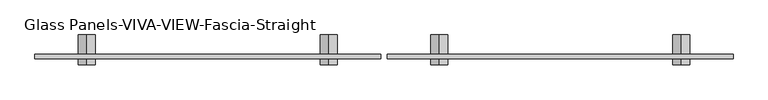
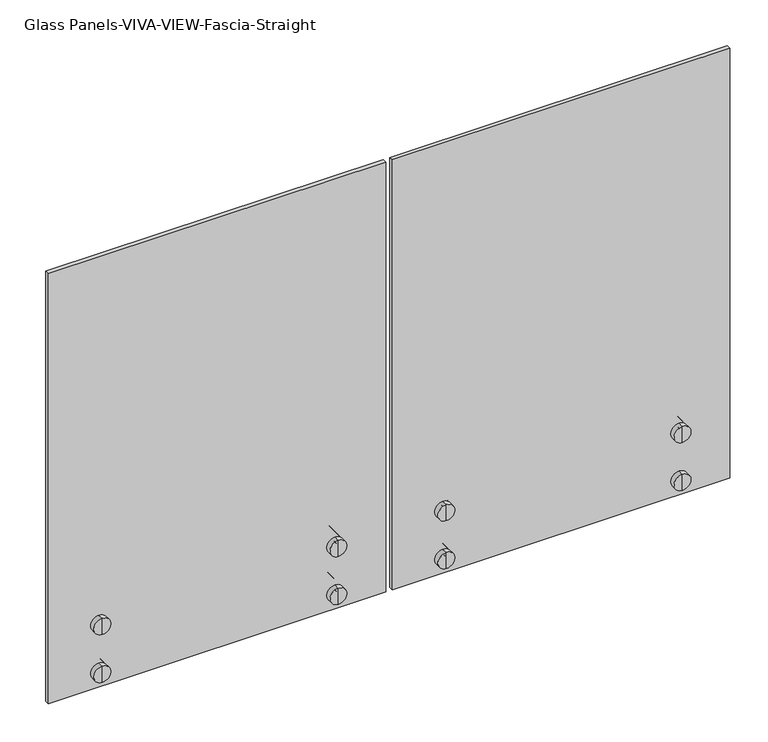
"""IFC4 building model written with IfcOpenShell, lengths in millimetres: railing geometry, Glass Panels-VIVA-VIEW-Fascia-Straight."""

from ifc_helpers import new_model, si_unit, frame, origin, place, context, project, spatial, polyline, circle_curve, outline, extrude, source, transform, mapped, element, save
from ifc_brep_helpers import plane_surface, cylinder_surface, advanced_brep


def glass_panels_viva_view_fascia_straight_90ccb595(model_context):
    return source(origin(), model_context, "Body", "SolidModel", [
        advanced_brep(
        [(38955.5896899, -2620.3591646, 2794.0), (38955.5896899, -2620.3591646, 2844.8), (38955.5896899, -2620.3591646, 2819.4), (38955.5896899, -2602.8966646, 2794.0), (38955.5896899, -2602.8966646, 2844.8), (38955.5896899, -2602.8966646, 2813.685), (38955.5896899, -2602.8966646, 2825.115), (38955.5896899, -2590.1966646, 2813.685), (38955.5896899, -2590.1966646, 2825.115), (38955.5896899, -2590.1966646, 2794.0), (38955.5896899, -2590.1966646, 2844.8), (38955.5896899, -2533.0468115, 2794.0), (38955.5896899, -2533.0468115, 2844.8), (38955.5896899, -2533.0468115, 2819.4)],
        [
            (0, 1, circle_curve(frame((38955.5896899, -2620.3591646, 2819.4), z_axis=(0.0, -1.0, 0.0), x_axis=(0.0, 0.0, 1.0)), 25.4)),
            (1, 2),
            (2, 0),
            (1, 0, circle_curve(frame((38955.5896899, -2620.3591646, 2819.4), z_axis=(0.0, -1.0, 0.0), x_axis=(0.0, 0.0, 1.0)), 25.4)),
            (3, 4, circle_curve(frame((38955.5896899, -2602.8966646, 2819.4), z_axis=(0.0, -1.0, 0.0), x_axis=(0.0, 0.0, 1.0)), 25.4)),
            (4, 1),
            (0, 3),
            (4, 3, circle_curve(frame((38955.5896899, -2602.8966646, 2819.4), z_axis=(0.0, -1.0, 0.0), x_axis=(0.0, 0.0, 1.0)), 25.4)),
            (5, 6, circle_curve(frame((38955.5896899, -2602.8966646, 2819.4), z_axis=(0.0, -1.0, 0.0), x_axis=(0.0, 0.0, 1.0)), 5.715)),
            (6, 4),
            (3, 5),
            (6, 5, circle_curve(frame((38955.5896899, -2602.8966646, 2819.4), z_axis=(0.0, -1.0, 0.0), x_axis=(0.0, 0.0, 1.0)), 5.715)),
            (7, 8, circle_curve(frame((38955.5896899, -2590.1966646, 2819.4), z_axis=(0.0, -1.0, 0.0), x_axis=(0.0, 0.0, 1.0)), 5.715)),
            (8, 6),
            (5, 7),
            (8, 7, circle_curve(frame((38955.5896899, -2590.1966646, 2819.4), z_axis=(0.0, -1.0, 0.0), x_axis=(0.0, 0.0, 1.0)), 5.715)),
            (9, 10, circle_curve(frame((38955.5896899, -2590.1966646, 2819.4), z_axis=(0.0, -1.0, 0.0), x_axis=(0.0, 0.0, 1.0)), 25.4)),
            (10, 8),
            (7, 9),
            (10, 9, circle_curve(frame((38955.5896899, -2590.1966646, 2819.4), z_axis=(0.0, -1.0, 0.0), x_axis=(0.0, 0.0, 1.0)), 25.4)),
            (11, 12, circle_curve(frame((38955.5896899, -2533.0468115, 2819.4), z_axis=(0.0, -1.0, 0.0), x_axis=(0.0, 0.0, 1.0)), 25.4)),
            (12, 10),
            (9, 11),
            (12, 11, circle_curve(frame((38955.5896899, -2533.0468115, 2819.4), z_axis=(0.0, -1.0, 0.0), x_axis=(0.0, 0.0, 1.0)), 25.4)),
            (13, 12),
            (11, 13),
        ],
        [
            plane_surface(frame((38955.5896899, -2620.3591646, 2819.4), z_axis=(0.0, -1.0, 0.0), x_axis=(0.0, 0.0, 1.0))),
            cylinder_surface(frame((38955.5896899, -2688.6218115, 2819.4), z_axis=(0.0, 1.0, 0.0), x_axis=(0.0, 0.0, 1.0)), 25.4),
            plane_surface(frame((38955.5896899, -2602.8966646, 2819.4), z_axis=(0.0, 1.0, 0.0), x_axis=(0.0, 0.0, 1.0))),
            cylinder_surface(frame((38955.5896899, -2688.6218115, 2819.4), z_axis=(0.0, 1.0, 0.0), x_axis=(0.0, 0.0, 1.0)), 5.715),
            plane_surface(frame((38955.5896899, -2590.1966646, 2819.4), z_axis=(0.0, -1.0, 0.0), x_axis=(0.0, 0.0, 1.0))),
            plane_surface(frame((38955.5896899, -2533.0468115, 2819.4), z_axis=(0.0, 1.0, 0.0), x_axis=(0.0, 0.0, 1.0))),
        ],
        [
            (0, [[1, 2, 3]]),
            (0, [[4, -3, -2]]),
            (1, [[5, 6, -1, 7]]),
            (1, [[8, -7, -4, -6]]),
            (2, [[9, 10, -5, 11]]),
            (2, [[12, -11, -8, -10]]),
            (3, [[13, 14, -9, 15]]),
            (3, [[16, -15, -12, -14]]),
            (4, [[17, 18, -13, 19]]),
            (4, [[20, -19, -16, -18]]),
            (1, [[21, 22, -17, 23]]),
            (1, [[24, -23, -20, -22]]),
            (5, [[25, -21, 26]]),
            (5, [[-26, -24, -25]]),
        ],
    ),
        advanced_brep(
        [(38955.5896899, -2602.8966646, 2966.085), (38955.5896899, -2602.8966646, 2977.515), (38955.5896899, -2602.8966646, 2997.2), (38955.5896899, -2602.8966646, 2946.4), (38955.5896899, -2590.1966646, 2966.085), (38955.5896899, -2590.1966646, 2977.515), (38955.5896899, -2590.1966646, 2946.4), (38955.5896899, -2590.1966646, 2997.2), (38955.5896899, -2533.0468115, 2946.4), (38955.5896899, -2533.0468115, 2997.2), (38955.5896899, -2533.0468115, 2971.8), (38955.5896899, -2620.3591646, 2946.4), (38955.5896899, -2620.3591646, 2997.2), (38955.5896899, -2620.3591646, 2971.8)],
        [
            (0, 1, circle_curve(frame((38955.5896899, -2602.8966646, 2971.8), z_axis=(0.0, -1.0, 0.0), x_axis=(0.0, 0.0, 1.0)), 5.715)),
            (1, 2),
            (2, 3, circle_curve(frame((38955.5896899, -2602.8966646, 2971.8), z_axis=(0.0, 1.0, 0.0), x_axis=(0.0, 0.0, 1.0)), 25.4)),
            (3, 0),
            (1, 0, circle_curve(frame((38955.5896899, -2602.8966646, 2971.8), z_axis=(0.0, -1.0, 0.0), x_axis=(0.0, 0.0, 1.0)), 5.715)),
            (3, 2, circle_curve(frame((38955.5896899, -2602.8966646, 2971.8), z_axis=(0.0, 1.0, 0.0), x_axis=(0.0, 0.0, 1.0)), 25.4)),
            (4, 5, circle_curve(frame((38955.5896899, -2590.1966646, 2971.8), z_axis=(0.0, -1.0, 0.0), x_axis=(0.0, 0.0, 1.0)), 5.715)),
            (5, 1),
            (0, 4),
            (5, 4, circle_curve(frame((38955.5896899, -2590.1966646, 2971.8), z_axis=(0.0, -1.0, 0.0), x_axis=(0.0, 0.0, 1.0)), 5.715)),
            (6, 7, circle_curve(frame((38955.5896899, -2590.1966646, 2971.8), z_axis=(0.0, -1.0, 0.0), x_axis=(0.0, 0.0, 1.0)), 25.4)),
            (7, 5),
            (4, 6),
            (7, 6, circle_curve(frame((38955.5896899, -2590.1966646, 2971.8), z_axis=(0.0, -1.0, 0.0), x_axis=(0.0, 0.0, 1.0)), 25.4)),
            (8, 9, circle_curve(frame((38955.5896899, -2533.0468115, 2971.8), z_axis=(0.0, -1.0, 0.0), x_axis=(0.0, 0.0, 1.0)), 25.4)),
            (9, 7),
            (6, 8),
            (9, 8, circle_curve(frame((38955.5896899, -2533.0468115, 2971.8), z_axis=(0.0, -1.0, 0.0), x_axis=(0.0, 0.0, 1.0)), 25.4)),
            (10, 9),
            (8, 10),
            (11, 12, circle_curve(frame((38955.5896899, -2620.3591646, 2971.8), z_axis=(0.0, -1.0, 0.0), x_axis=(0.0, 0.0, 1.0)), 25.4)),
            (12, 13),
            (13, 11),
            (12, 11, circle_curve(frame((38955.5896899, -2620.3591646, 2971.8), z_axis=(0.0, -1.0, 0.0), x_axis=(0.0, 0.0, 1.0)), 25.4)),
            (2, 12),
            (11, 3),
        ],
        [
            plane_surface(frame((38955.5896899, -2602.8966646, 2971.8), z_axis=(0.0, 1.0, 0.0), x_axis=(0.0, 0.0, 1.0))),
            cylinder_surface(frame((38955.5896899, -2688.6218115, 2971.8), z_axis=(0.0, 1.0, 0.0), x_axis=(0.0, 0.0, 1.0)), 5.715),
            plane_surface(frame((38955.5896899, -2590.1966646, 2971.8), z_axis=(0.0, -1.0, 0.0), x_axis=(0.0, 0.0, 1.0))),
            cylinder_surface(frame((38955.5896899, -2688.6218115, 2971.8), z_axis=(0.0, 1.0, 0.0), x_axis=(0.0, 0.0, 1.0)), 25.4),
            plane_surface(frame((38955.5896899, -2533.0468115, 2971.8), z_axis=(0.0, 1.0, 0.0), x_axis=(0.0, 0.0, 1.0))),
            plane_surface(frame((38955.5896899, -2620.3591646, 2971.8), z_axis=(0.0, -1.0, 0.0), x_axis=(0.0, 0.0, 1.0))),
        ],
        [
            (0, [[1, 2, 3, 4]]),
            (0, [[5, -4, 6, -2]]),
            (1, [[7, 8, -1, 9]]),
            (1, [[10, -9, -5, -8]]),
            (2, [[11, 12, -7, 13]]),
            (2, [[14, -13, -10, -12]]),
            (3, [[15, 16, -11, 17]]),
            (3, [[18, -17, -14, -16]]),
            (4, [[19, -15, 20]]),
            (4, [[-20, -18, -19]]),
            (5, [[21, 22, 23]]),
            (5, [[24, -23, -22]]),
            (3, [[-3, 25, -21, 26]]),
            (3, [[-6, -26, -24, -25]]),
        ],
    ),
        advanced_brep(
        [(39666.7896899, -2620.3591646, 2794.0), (39666.7896899, -2620.3591646, 2844.8), (39666.7896899, -2620.3591646, 2819.4), (39666.7896899, -2602.8966646, 2794.0), (39666.7896899, -2602.8966646, 2844.8), (39666.7896899, -2602.8966646, 2813.685), (39666.7896899, -2602.8966646, 2825.115), (39666.7896899, -2590.1966646, 2813.685), (39666.7896899, -2590.1966646, 2825.115), (39666.7896899, -2590.1966646, 2794.0), (39666.7896899, -2590.1966646, 2844.8), (39666.7896899, -2533.0468115, 2794.0), (39666.7896899, -2533.0468115, 2844.8), (39666.7896899, -2533.0468115, 2819.4)],
        [
            (0, 1, circle_curve(frame((39666.7896899, -2620.3591646, 2819.4), z_axis=(0.0, -1.0, 0.0), x_axis=(0.0, 0.0, 1.0)), 25.4)),
            (1, 2),
            (2, 0),
            (1, 0, circle_curve(frame((39666.7896899, -2620.3591646, 2819.4), z_axis=(0.0, -1.0, 0.0), x_axis=(0.0, 0.0, 1.0)), 25.4)),
            (3, 4, circle_curve(frame((39666.7896899, -2602.8966646, 2819.4), z_axis=(0.0, -1.0, 0.0), x_axis=(0.0, 0.0, 1.0)), 25.4)),
            (4, 1),
            (0, 3),
            (4, 3, circle_curve(frame((39666.7896899, -2602.8966646, 2819.4), z_axis=(0.0, -1.0, 0.0), x_axis=(0.0, 0.0, 1.0)), 25.4)),
            (5, 6, circle_curve(frame((39666.7896899, -2602.8966646, 2819.4), z_axis=(0.0, -1.0, 0.0), x_axis=(0.0, 0.0, 1.0)), 5.715)),
            (6, 4),
            (3, 5),
            (6, 5, circle_curve(frame((39666.7896899, -2602.8966646, 2819.4), z_axis=(0.0, -1.0, 0.0), x_axis=(0.0, 0.0, 1.0)), 5.715)),
            (7, 8, circle_curve(frame((39666.7896899, -2590.1966646, 2819.4), z_axis=(0.0, -1.0, 0.0), x_axis=(0.0, 0.0, 1.0)), 5.715)),
            (8, 6),
            (5, 7),
            (8, 7, circle_curve(frame((39666.7896899, -2590.1966646, 2819.4), z_axis=(0.0, -1.0, 0.0), x_axis=(0.0, 0.0, 1.0)), 5.715)),
            (9, 10, circle_curve(frame((39666.7896899, -2590.1966646, 2819.4), z_axis=(0.0, -1.0, 0.0), x_axis=(0.0, 0.0, 1.0)), 25.4)),
            (10, 8),
            (7, 9),
            (10, 9, circle_curve(frame((39666.7896899, -2590.1966646, 2819.4), z_axis=(0.0, -1.0, 0.0), x_axis=(0.0, 0.0, 1.0)), 25.4)),
            (11, 12, circle_curve(frame((39666.7896899, -2533.0468115, 2819.4), z_axis=(0.0, -1.0, 0.0), x_axis=(0.0, 0.0, 1.0)), 25.4)),
            (12, 10),
            (9, 11),
            (12, 11, circle_curve(frame((39666.7896899, -2533.0468115, 2819.4), z_axis=(0.0, -1.0, 0.0), x_axis=(0.0, 0.0, 1.0)), 25.4)),
            (13, 12),
            (11, 13),
        ],
        [
            plane_surface(frame((39666.7896899, -2620.3591646, 2819.4), z_axis=(0.0, -1.0, 0.0), x_axis=(0.0, 0.0, 1.0))),
            cylinder_surface(frame((39666.7896899, -2688.6218115, 2819.4), z_axis=(0.0, 1.0, 0.0), x_axis=(0.0, 0.0, 1.0)), 25.4),
            plane_surface(frame((39666.7896899, -2602.8966646, 2819.4), z_axis=(0.0, 1.0, 0.0), x_axis=(0.0, 0.0, 1.0))),
            cylinder_surface(frame((39666.7896899, -2688.6218115, 2819.4), z_axis=(0.0, 1.0, 0.0), x_axis=(0.0, 0.0, 1.0)), 5.715),
            plane_surface(frame((39666.7896899, -2590.1966646, 2819.4), z_axis=(0.0, -1.0, 0.0), x_axis=(0.0, 0.0, 1.0))),
            plane_surface(frame((39666.7896899, -2533.0468115, 2819.4), z_axis=(0.0, 1.0, 0.0), x_axis=(0.0, 0.0, 1.0))),
        ],
        [
            (0, [[1, 2, 3]]),
            (0, [[4, -3, -2]]),
            (1, [[5, 6, -1, 7]]),
            (1, [[8, -7, -4, -6]]),
            (2, [[9, 10, -5, 11]]),
            (2, [[12, -11, -8, -10]]),
            (3, [[13, 14, -9, 15]]),
            (3, [[16, -15, -12, -14]]),
            (4, [[17, 18, -13, 19]]),
            (4, [[20, -19, -16, -18]]),
            (1, [[21, 22, -17, 23]]),
            (1, [[24, -23, -20, -22]]),
            (5, [[25, -21, 26]]),
            (5, [[-26, -24, -25]]),
        ],
    ),
        advanced_brep(
        [(39666.7896899, -2602.8966646, 2966.085), (39666.7896899, -2602.8966646, 2977.515), (39666.7896899, -2602.8966646, 2997.2), (39666.7896899, -2602.8966646, 2946.4), (39666.7896899, -2590.1966646, 2966.085), (39666.7896899, -2590.1966646, 2977.515), (39666.7896899, -2590.1966646, 2946.4), (39666.7896899, -2590.1966646, 2997.2), (39666.7896899, -2533.0468115, 2946.4), (39666.7896899, -2533.0468115, 2997.2), (39666.7896899, -2533.0468115, 2971.8), (39666.7896899, -2620.3591646, 2946.4), (39666.7896899, -2620.3591646, 2997.2), (39666.7896899, -2620.3591646, 2971.8)],
        [
            (0, 1, circle_curve(frame((39666.7896899, -2602.8966646, 2971.8), z_axis=(0.0, -1.0, 0.0), x_axis=(0.0, 0.0, 1.0)), 5.715)),
            (1, 2),
            (2, 3, circle_curve(frame((39666.7896899, -2602.8966646, 2971.8), z_axis=(0.0, 1.0, 0.0), x_axis=(0.0, 0.0, 1.0)), 25.4)),
            (3, 0),
            (1, 0, circle_curve(frame((39666.7896899, -2602.8966646, 2971.8), z_axis=(0.0, -1.0, 0.0), x_axis=(0.0, 0.0, 1.0)), 5.715)),
            (3, 2, circle_curve(frame((39666.7896899, -2602.8966646, 2971.8), z_axis=(0.0, 1.0, 0.0), x_axis=(0.0, 0.0, 1.0)), 25.4)),
            (4, 5, circle_curve(frame((39666.7896899, -2590.1966646, 2971.8), z_axis=(0.0, -1.0, 0.0), x_axis=(0.0, 0.0, 1.0)), 5.715)),
            (5, 1),
            (0, 4),
            (5, 4, circle_curve(frame((39666.7896899, -2590.1966646, 2971.8), z_axis=(0.0, -1.0, 0.0), x_axis=(0.0, 0.0, 1.0)), 5.715)),
            (6, 7, circle_curve(frame((39666.7896899, -2590.1966646, 2971.8), z_axis=(0.0, -1.0, 0.0), x_axis=(0.0, 0.0, 1.0)), 25.4)),
            (7, 5),
            (4, 6),
            (7, 6, circle_curve(frame((39666.7896899, -2590.1966646, 2971.8), z_axis=(0.0, -1.0, 0.0), x_axis=(0.0, 0.0, 1.0)), 25.4)),
            (8, 9, circle_curve(frame((39666.7896899, -2533.0468115, 2971.8), z_axis=(0.0, -1.0, 0.0), x_axis=(0.0, 0.0, 1.0)), 25.4)),
            (9, 7),
            (6, 8),
            (9, 8, circle_curve(frame((39666.7896899, -2533.0468115, 2971.8), z_axis=(0.0, -1.0, 0.0), x_axis=(0.0, 0.0, 1.0)), 25.4)),
            (10, 9),
            (8, 10),
            (11, 12, circle_curve(frame((39666.7896899, -2620.3591646, 2971.8), z_axis=(0.0, -1.0, 0.0), x_axis=(0.0, 0.0, 1.0)), 25.4)),
            (12, 13),
            (13, 11),
            (12, 11, circle_curve(frame((39666.7896899, -2620.3591646, 2971.8), z_axis=(0.0, -1.0, 0.0), x_axis=(0.0, 0.0, 1.0)), 25.4)),
            (2, 12),
            (11, 3),
        ],
        [
            plane_surface(frame((39666.7896899, -2602.8966646, 2971.8), z_axis=(0.0, 1.0, 0.0), x_axis=(0.0, 0.0, 1.0))),
            cylinder_surface(frame((39666.7896899, -2688.6218115, 2971.8), z_axis=(0.0, 1.0, 0.0), x_axis=(0.0, 0.0, 1.0)), 5.715),
            plane_surface(frame((39666.7896899, -2590.1966646, 2971.8), z_axis=(0.0, -1.0, 0.0), x_axis=(0.0, 0.0, 1.0))),
            cylinder_surface(frame((39666.7896899, -2688.6218115, 2971.8), z_axis=(0.0, 1.0, 0.0), x_axis=(0.0, 0.0, 1.0)), 25.4),
            plane_surface(frame((39666.7896899, -2533.0468115, 2971.8), z_axis=(0.0, 1.0, 0.0), x_axis=(0.0, 0.0, 1.0))),
            plane_surface(frame((39666.7896899, -2620.3591646, 2971.8), z_axis=(0.0, -1.0, 0.0), x_axis=(0.0, 0.0, 1.0))),
        ],
        [
            (0, [[1, 2, 3, 4]]),
            (0, [[5, -4, 6, -2]]),
            (1, [[7, 8, -1, 9]]),
            (1, [[10, -9, -5, -8]]),
            (2, [[11, 12, -7, 13]]),
            (2, [[14, -13, -10, -12]]),
            (3, [[15, 16, -11, 17]]),
            (3, [[18, -17, -14, -16]]),
            (4, [[19, -15, 20]]),
            (4, [[-20, -18, -19]]),
            (5, [[21, 22, 23]]),
            (5, [[24, -23, -22]]),
            (3, [[-3, 25, -21, 26]]),
            (3, [[-6, -26, -24, -25]]),
        ],
    ),
        extrude(outline(polyline([(38803.1896899, -2590.1969585), (39819.1896899, -2590.1969585), (39819.1896899, -2602.8969585), (38803.1896899, -2602.8969585), (38803.1896899, -2590.1969585)])), frame((0.0, 0.0, 2768.6), z_axis=(0.0, 0.0, 1.0), x_axis=(1.0, 0.0, 0.0)), (0.0, 0.0, 1.0), 1370.0125),
        advanced_brep(
        [(37919.2696899, -2620.3591646, 2794.0), (37919.2696899, -2620.3591646, 2844.8), (37919.2696899, -2620.3591646, 2819.4), (37919.2696899, -2602.8966646, 2794.0), (37919.2696899, -2602.8966646, 2844.8), (37919.2696899, -2602.8966646, 2813.685), (37919.2696899, -2602.8966646, 2825.115), (37919.2696899, -2590.1966646, 2813.685), (37919.2696899, -2590.1966646, 2825.115), (37919.2696899, -2590.1966646, 2794.0), (37919.2696899, -2590.1966646, 2844.8), (37919.2696899, -2533.0468115, 2794.0), (37919.2696899, -2533.0468115, 2844.8), (37919.2696899, -2533.0468115, 2819.4)],
        [
            (0, 1, circle_curve(frame((37919.2696899, -2620.3591646, 2819.4), z_axis=(0.0, -1.0, 0.0), x_axis=(0.0, 0.0, 1.0)), 25.4)),
            (1, 2),
            (2, 0),
            (1, 0, circle_curve(frame((37919.2696899, -2620.3591646, 2819.4), z_axis=(0.0, -1.0, 0.0), x_axis=(0.0, 0.0, 1.0)), 25.4)),
            (3, 4, circle_curve(frame((37919.2696899, -2602.8966646, 2819.4), z_axis=(0.0, -1.0, 0.0), x_axis=(0.0, 0.0, 1.0)), 25.4)),
            (4, 1),
            (0, 3),
            (4, 3, circle_curve(frame((37919.2696899, -2602.8966646, 2819.4), z_axis=(0.0, -1.0, 0.0), x_axis=(0.0, 0.0, 1.0)), 25.4)),
            (5, 6, circle_curve(frame((37919.2696899, -2602.8966646, 2819.4), z_axis=(0.0, -1.0, 0.0), x_axis=(0.0, 0.0, 1.0)), 5.715)),
            (6, 4),
            (3, 5),
            (6, 5, circle_curve(frame((37919.2696899, -2602.8966646, 2819.4), z_axis=(0.0, -1.0, 0.0), x_axis=(0.0, 0.0, 1.0)), 5.715)),
            (7, 8, circle_curve(frame((37919.2696899, -2590.1966646, 2819.4), z_axis=(0.0, -1.0, 0.0), x_axis=(0.0, 0.0, 1.0)), 5.715)),
            (8, 6),
            (5, 7),
            (8, 7, circle_curve(frame((37919.2696899, -2590.1966646, 2819.4), z_axis=(0.0, -1.0, 0.0), x_axis=(0.0, 0.0, 1.0)), 5.715)),
            (9, 10, circle_curve(frame((37919.2696899, -2590.1966646, 2819.4), z_axis=(0.0, -1.0, 0.0), x_axis=(0.0, 0.0, 1.0)), 25.4)),
            (10, 8),
            (7, 9),
            (10, 9, circle_curve(frame((37919.2696899, -2590.1966646, 2819.4), z_axis=(0.0, -1.0, 0.0), x_axis=(0.0, 0.0, 1.0)), 25.4)),
            (11, 12, circle_curve(frame((37919.2696899, -2533.0468115, 2819.4), z_axis=(0.0, -1.0, 0.0), x_axis=(0.0, 0.0, 1.0)), 25.4)),
            (12, 10),
            (9, 11),
            (12, 11, circle_curve(frame((37919.2696899, -2533.0468115, 2819.4), z_axis=(0.0, -1.0, 0.0), x_axis=(0.0, 0.0, 1.0)), 25.4)),
            (13, 12),
            (11, 13),
        ],
        [
            plane_surface(frame((37919.2696899, -2620.3591646, 2819.4), z_axis=(0.0, -1.0, 0.0), x_axis=(0.0, 0.0, 1.0))),
            cylinder_surface(frame((37919.2696899, -2688.6218115, 2819.4), z_axis=(0.0, 1.0, 0.0), x_axis=(0.0, 0.0, 1.0)), 25.4),
            plane_surface(frame((37919.2696899, -2602.8966646, 2819.4), z_axis=(0.0, 1.0, 0.0), x_axis=(0.0, 0.0, 1.0))),
            cylinder_surface(frame((37919.2696899, -2688.6218115, 2819.4), z_axis=(0.0, 1.0, 0.0), x_axis=(0.0, 0.0, 1.0)), 5.715),
            plane_surface(frame((37919.2696899, -2590.1966646, 2819.4), z_axis=(0.0, -1.0, 0.0), x_axis=(0.0, 0.0, 1.0))),
            plane_surface(frame((37919.2696899, -2533.0468115, 2819.4), z_axis=(0.0, 1.0, 0.0), x_axis=(0.0, 0.0, 1.0))),
        ],
        [
            (0, [[1, 2, 3]]),
            (0, [[4, -3, -2]]),
            (1, [[5, 6, -1, 7]]),
            (1, [[8, -7, -4, -6]]),
            (2, [[9, 10, -5, 11]]),
            (2, [[12, -11, -8, -10]]),
            (3, [[13, 14, -9, 15]]),
            (3, [[16, -15, -12, -14]]),
            (4, [[17, 18, -13, 19]]),
            (4, [[20, -19, -16, -18]]),
            (1, [[21, 22, -17, 23]]),
            (1, [[24, -23, -20, -22]]),
            (5, [[25, -21, 26]]),
            (5, [[-26, -24, -25]]),
        ],
    ),
        advanced_brep(
        [(37919.2696899, -2602.8966646, 2966.085), (37919.2696899, -2602.8966646, 2977.515), (37919.2696899, -2602.8966646, 2997.2), (37919.2696899, -2602.8966646, 2946.4), (37919.2696899, -2590.1966646, 2966.085), (37919.2696899, -2590.1966646, 2977.515), (37919.2696899, -2590.1966646, 2946.4), (37919.2696899, -2590.1966646, 2997.2), (37919.2696899, -2533.0468115, 2946.4), (37919.2696899, -2533.0468115, 2997.2), (37919.2696899, -2533.0468115, 2971.8), (37919.2696899, -2620.3591646, 2946.4), (37919.2696899, -2620.3591646, 2997.2), (37919.2696899, -2620.3591646, 2971.8)],
        [
            (0, 1, circle_curve(frame((37919.2696899, -2602.8966646, 2971.8), z_axis=(0.0, -1.0, 0.0), x_axis=(0.0, 0.0, 1.0)), 5.715)),
            (1, 2),
            (2, 3, circle_curve(frame((37919.2696899, -2602.8966646, 2971.8), z_axis=(0.0, 1.0, 0.0), x_axis=(0.0, 0.0, 1.0)), 25.4)),
            (3, 0),
            (1, 0, circle_curve(frame((37919.2696899, -2602.8966646, 2971.8), z_axis=(0.0, -1.0, 0.0), x_axis=(0.0, 0.0, 1.0)), 5.715)),
            (3, 2, circle_curve(frame((37919.2696899, -2602.8966646, 2971.8), z_axis=(0.0, 1.0, 0.0), x_axis=(0.0, 0.0, 1.0)), 25.4)),
            (4, 5, circle_curve(frame((37919.2696899, -2590.1966646, 2971.8), z_axis=(0.0, -1.0, 0.0), x_axis=(0.0, 0.0, 1.0)), 5.715)),
            (5, 1),
            (0, 4),
            (5, 4, circle_curve(frame((37919.2696899, -2590.1966646, 2971.8), z_axis=(0.0, -1.0, 0.0), x_axis=(0.0, 0.0, 1.0)), 5.715)),
            (6, 7, circle_curve(frame((37919.2696899, -2590.1966646, 2971.8), z_axis=(0.0, -1.0, 0.0), x_axis=(0.0, 0.0, 1.0)), 25.4)),
            (7, 5),
            (4, 6),
            (7, 6, circle_curve(frame((37919.2696899, -2590.1966646, 2971.8), z_axis=(0.0, -1.0, 0.0), x_axis=(0.0, 0.0, 1.0)), 25.4)),
            (8, 9, circle_curve(frame((37919.2696899, -2533.0468115, 2971.8), z_axis=(0.0, -1.0, 0.0), x_axis=(0.0, 0.0, 1.0)), 25.4)),
            (9, 7),
            (6, 8),
            (9, 8, circle_curve(frame((37919.2696899, -2533.0468115, 2971.8), z_axis=(0.0, -1.0, 0.0), x_axis=(0.0, 0.0, 1.0)), 25.4)),
            (10, 9),
            (8, 10),
            (11, 12, circle_curve(frame((37919.2696899, -2620.3591646, 2971.8), z_axis=(0.0, -1.0, 0.0), x_axis=(0.0, 0.0, 1.0)), 25.4)),
            (12, 13),
            (13, 11),
            (12, 11, circle_curve(frame((37919.2696899, -2620.3591646, 2971.8), z_axis=(0.0, -1.0, 0.0), x_axis=(0.0, 0.0, 1.0)), 25.4)),
            (2, 12),
            (11, 3),
        ],
        [
            plane_surface(frame((37919.2696899, -2602.8966646, 2971.8), z_axis=(0.0, 1.0, 0.0), x_axis=(0.0, 0.0, 1.0))),
            cylinder_surface(frame((37919.2696899, -2688.6218115, 2971.8), z_axis=(0.0, 1.0, 0.0), x_axis=(0.0, 0.0, 1.0)), 5.715),
            plane_surface(frame((37919.2696899, -2590.1966646, 2971.8), z_axis=(0.0, -1.0, 0.0), x_axis=(0.0, 0.0, 1.0))),
            cylinder_surface(frame((37919.2696899, -2688.6218115, 2971.8), z_axis=(0.0, 1.0, 0.0), x_axis=(0.0, 0.0, 1.0)), 25.4),
            plane_surface(frame((37919.2696899, -2533.0468115, 2971.8), z_axis=(0.0, 1.0, 0.0), x_axis=(0.0, 0.0, 1.0))),
            plane_surface(frame((37919.2696899, -2620.3591646, 2971.8), z_axis=(0.0, -1.0, 0.0), x_axis=(0.0, 0.0, 1.0))),
        ],
        [
            (0, [[1, 2, 3, 4]]),
            (0, [[5, -4, 6, -2]]),
            (1, [[7, 8, -1, 9]]),
            (1, [[10, -9, -5, -8]]),
            (2, [[11, 12, -7, 13]]),
            (2, [[14, -13, -10, -12]]),
            (3, [[15, 16, -11, 17]]),
            (3, [[18, -17, -14, -16]]),
            (4, [[19, -15, 20]]),
            (4, [[-20, -18, -19]]),
            (5, [[21, 22, 23]]),
            (5, [[24, -23, -22]]),
            (3, [[-3, 25, -21, 26]]),
            (3, [[-6, -26, -24, -25]]),
        ],
    ),
        advanced_brep(
        [(38630.4696899, -2620.3591646, 2794.0), (38630.4696899, -2620.3591646, 2844.8), (38630.4696899, -2620.3591646, 2819.4), (38630.4696899, -2602.8966646, 2794.0), (38630.4696899, -2602.8966646, 2844.8), (38630.4696899, -2602.8966646, 2813.685), (38630.4696899, -2602.8966646, 2825.115), (38630.4696899, -2590.1966646, 2813.685), (38630.4696899, -2590.1966646, 2825.115), (38630.4696899, -2590.1966646, 2794.0), (38630.4696899, -2590.1966646, 2844.8), (38630.4696899, -2533.0468115, 2794.0), (38630.4696899, -2533.0468115, 2844.8), (38630.4696899, -2533.0468115, 2819.4)],
        [
            (0, 1, circle_curve(frame((38630.4696899, -2620.3591646, 2819.4), z_axis=(0.0, -1.0, 0.0), x_axis=(0.0, 0.0, 1.0)), 25.4)),
            (1, 2),
            (2, 0),
            (1, 0, circle_curve(frame((38630.4696899, -2620.3591646, 2819.4), z_axis=(0.0, -1.0, 0.0), x_axis=(0.0, 0.0, 1.0)), 25.4)),
            (3, 4, circle_curve(frame((38630.4696899, -2602.8966646, 2819.4), z_axis=(0.0, -1.0, 0.0), x_axis=(0.0, 0.0, 1.0)), 25.4)),
            (4, 1),
            (0, 3),
            (4, 3, circle_curve(frame((38630.4696899, -2602.8966646, 2819.4), z_axis=(0.0, -1.0, 0.0), x_axis=(0.0, 0.0, 1.0)), 25.4)),
            (5, 6, circle_curve(frame((38630.4696899, -2602.8966646, 2819.4), z_axis=(0.0, -1.0, 0.0), x_axis=(0.0, 0.0, 1.0)), 5.715)),
            (6, 4),
            (3, 5),
            (6, 5, circle_curve(frame((38630.4696899, -2602.8966646, 2819.4), z_axis=(0.0, -1.0, 0.0), x_axis=(0.0, 0.0, 1.0)), 5.715)),
            (7, 8, circle_curve(frame((38630.4696899, -2590.1966646, 2819.4), z_axis=(0.0, -1.0, 0.0), x_axis=(0.0, 0.0, 1.0)), 5.715)),
            (8, 6),
            (5, 7),
            (8, 7, circle_curve(frame((38630.4696899, -2590.1966646, 2819.4), z_axis=(0.0, -1.0, 0.0), x_axis=(0.0, 0.0, 1.0)), 5.715)),
            (9, 10, circle_curve(frame((38630.4696899, -2590.1966646, 2819.4), z_axis=(0.0, -1.0, 0.0), x_axis=(0.0, 0.0, 1.0)), 25.4)),
            (10, 8),
            (7, 9),
            (10, 9, circle_curve(frame((38630.4696899, -2590.1966646, 2819.4), z_axis=(0.0, -1.0, 0.0), x_axis=(0.0, 0.0, 1.0)), 25.4)),
            (11, 12, circle_curve(frame((38630.4696899, -2533.0468115, 2819.4), z_axis=(0.0, -1.0, 0.0), x_axis=(0.0, 0.0, 1.0)), 25.4)),
            (12, 10),
            (9, 11),
            (12, 11, circle_curve(frame((38630.4696899, -2533.0468115, 2819.4), z_axis=(0.0, -1.0, 0.0), x_axis=(0.0, 0.0, 1.0)), 25.4)),
            (13, 12),
            (11, 13),
        ],
        [
            plane_surface(frame((38630.4696899, -2620.3591646, 2819.4), z_axis=(0.0, -1.0, 0.0), x_axis=(0.0, 0.0, 1.0))),
            cylinder_surface(frame((38630.4696899, -2688.6218115, 2819.4), z_axis=(0.0, 1.0, 0.0), x_axis=(0.0, 0.0, 1.0)), 25.4),
            plane_surface(frame((38630.4696899, -2602.8966646, 2819.4), z_axis=(0.0, 1.0, 0.0), x_axis=(0.0, 0.0, 1.0))),
            cylinder_surface(frame((38630.4696899, -2688.6218115, 2819.4), z_axis=(0.0, 1.0, 0.0), x_axis=(0.0, 0.0, 1.0)), 5.715),
            plane_surface(frame((38630.4696899, -2590.1966646, 2819.4), z_axis=(0.0, -1.0, 0.0), x_axis=(0.0, 0.0, 1.0))),
            plane_surface(frame((38630.4696899, -2533.0468115, 2819.4), z_axis=(0.0, 1.0, 0.0), x_axis=(0.0, 0.0, 1.0))),
        ],
        [
            (0, [[1, 2, 3]]),
            (0, [[4, -3, -2]]),
            (1, [[5, 6, -1, 7]]),
            (1, [[8, -7, -4, -6]]),
            (2, [[9, 10, -5, 11]]),
            (2, [[12, -11, -8, -10]]),
            (3, [[13, 14, -9, 15]]),
            (3, [[16, -15, -12, -14]]),
            (4, [[17, 18, -13, 19]]),
            (4, [[20, -19, -16, -18]]),
            (1, [[21, 22, -17, 23]]),
            (1, [[24, -23, -20, -22]]),
            (5, [[25, -21, 26]]),
            (5, [[-26, -24, -25]]),
        ],
    ),
        advanced_brep(
        [(38630.4696899, -2602.8966646, 2966.085), (38630.4696899, -2602.8966646, 2977.515), (38630.4696899, -2602.8966646, 2997.2), (38630.4696899, -2602.8966646, 2946.4), (38630.4696899, -2590.1966646, 2966.085), (38630.4696899, -2590.1966646, 2977.515), (38630.4696899, -2590.1966646, 2946.4), (38630.4696899, -2590.1966646, 2997.2), (38630.4696899, -2533.0468115, 2946.4), (38630.4696899, -2533.0468115, 2997.2), (38630.4696899, -2533.0468115, 2971.8), (38630.4696899, -2620.3591646, 2946.4), (38630.4696899, -2620.3591646, 2997.2), (38630.4696899, -2620.3591646, 2971.8)],
        [
            (0, 1, circle_curve(frame((38630.4696899, -2602.8966646, 2971.8), z_axis=(0.0, -1.0, 0.0), x_axis=(0.0, 0.0, 1.0)), 5.715)),
            (1, 2),
            (2, 3, circle_curve(frame((38630.4696899, -2602.8966646, 2971.8), z_axis=(0.0, 1.0, 0.0), x_axis=(0.0, 0.0, 1.0)), 25.4)),
            (3, 0),
            (1, 0, circle_curve(frame((38630.4696899, -2602.8966646, 2971.8), z_axis=(0.0, -1.0, 0.0), x_axis=(0.0, 0.0, 1.0)), 5.715)),
            (3, 2, circle_curve(frame((38630.4696899, -2602.8966646, 2971.8), z_axis=(0.0, 1.0, 0.0), x_axis=(0.0, 0.0, 1.0)), 25.4)),
            (4, 5, circle_curve(frame((38630.4696899, -2590.1966646, 2971.8), z_axis=(0.0, -1.0, 0.0), x_axis=(0.0, 0.0, 1.0)), 5.715)),
            (5, 1),
            (0, 4),
            (5, 4, circle_curve(frame((38630.4696899, -2590.1966646, 2971.8), z_axis=(0.0, -1.0, 0.0), x_axis=(0.0, 0.0, 1.0)), 5.715)),
            (6, 7, circle_curve(frame((38630.4696899, -2590.1966646, 2971.8), z_axis=(0.0, -1.0, 0.0), x_axis=(0.0, 0.0, 1.0)), 25.4)),
            (7, 5),
            (4, 6),
            (7, 6, circle_curve(frame((38630.4696899, -2590.1966646, 2971.8), z_axis=(0.0, -1.0, 0.0), x_axis=(0.0, 0.0, 1.0)), 25.4)),
            (8, 9, circle_curve(frame((38630.4696899, -2533.0468115, 2971.8), z_axis=(0.0, -1.0, 0.0), x_axis=(0.0, 0.0, 1.0)), 25.4)),
            (9, 7),
            (6, 8),
            (9, 8, circle_curve(frame((38630.4696899, -2533.0468115, 2971.8), z_axis=(0.0, -1.0, 0.0), x_axis=(0.0, 0.0, 1.0)), 25.4)),
            (10, 9),
            (8, 10),
            (11, 12, circle_curve(frame((38630.4696899, -2620.3591646, 2971.8), z_axis=(0.0, -1.0, 0.0), x_axis=(0.0, 0.0, 1.0)), 25.4)),
            (12, 13),
            (13, 11),
            (12, 11, circle_curve(frame((38630.4696899, -2620.3591646, 2971.8), z_axis=(0.0, -1.0, 0.0), x_axis=(0.0, 0.0, 1.0)), 25.4)),
            (2, 12),
            (11, 3),
        ],
        [
            plane_surface(frame((38630.4696899, -2602.8966646, 2971.8), z_axis=(0.0, 1.0, 0.0), x_axis=(0.0, 0.0, 1.0))),
            cylinder_surface(frame((38630.4696899, -2688.6218115, 2971.8), z_axis=(0.0, 1.0, 0.0), x_axis=(0.0, 0.0, 1.0)), 5.715),
            plane_surface(frame((38630.4696899, -2590.1966646, 2971.8), z_axis=(0.0, -1.0, 0.0), x_axis=(0.0, 0.0, 1.0))),
            cylinder_surface(frame((38630.4696899, -2688.6218115, 2971.8), z_axis=(0.0, 1.0, 0.0), x_axis=(0.0, 0.0, 1.0)), 25.4),
            plane_surface(frame((38630.4696899, -2533.0468115, 2971.8), z_axis=(0.0, 1.0, 0.0), x_axis=(0.0, 0.0, 1.0))),
            plane_surface(frame((38630.4696899, -2620.3591646, 2971.8), z_axis=(0.0, -1.0, 0.0), x_axis=(0.0, 0.0, 1.0))),
        ],
        [
            (0, [[1, 2, 3, 4]]),
            (0, [[5, -4, 6, -2]]),
            (1, [[7, 8, -1, 9]]),
            (1, [[10, -9, -5, -8]]),
            (2, [[11, 12, -7, 13]]),
            (2, [[14, -13, -10, -12]]),
            (3, [[15, 16, -11, 17]]),
            (3, [[18, -17, -14, -16]]),
            (4, [[19, -15, 20]]),
            (4, [[-20, -18, -19]]),
            (5, [[21, 22, 23]]),
            (5, [[24, -23, -22]]),
            (3, [[-3, 25, -21, 26]]),
            (3, [[-6, -26, -24, -25]]),
        ],
    ),
        extrude(outline(polyline([(37766.8696899, -2590.1969585), (38782.8696899, -2590.1969585), (38782.8696899, -2602.8969585), (37766.8696899, -2602.8969585), (37766.8696899, -2590.1969585)])), frame((0.0, 0.0, 2768.6), z_axis=(0.0, 0.0, 1.0), x_axis=(1.0, 0.0, 0.0)), (0.0, 0.0, 1.0), 1370.0125),
    ])


if __name__ == "__main__":
    model = new_model("IFC4")
    model_context = context("Model", 3, world=origin())
    ifc_project = project(units=[si_unit("LENGTHUNIT", "METRE", prefix="MILLI")], contexts=[model_context])
    site = spatial("IfcSite", under=ifc_project)
    building = spatial("IfcBuilding", under=site)
    placement = place(None, origin())
    glass_panels_viva_view_fascia_straight_shape = glass_panels_viva_view_fascia_straight_90ccb595(model_context)
    element("IfcRailing", 1, ObjectType="Glass Panels-VIVA-VIEW-Fascia-Straight", at=placement, inside=building, context=model_context, shape_type="MappedRepresentation", body=[
        mapped(glass_panels_viva_view_fascia_straight_shape, transform((0.0, 0.0, 0.0), x_axis=(1.0, 0.0, 0.0), y_axis=(0.0, 1.0, 0.0), z_axis=(0.0, 0.0, 1.0))),
    ])
    save(model, "model.ifc")
